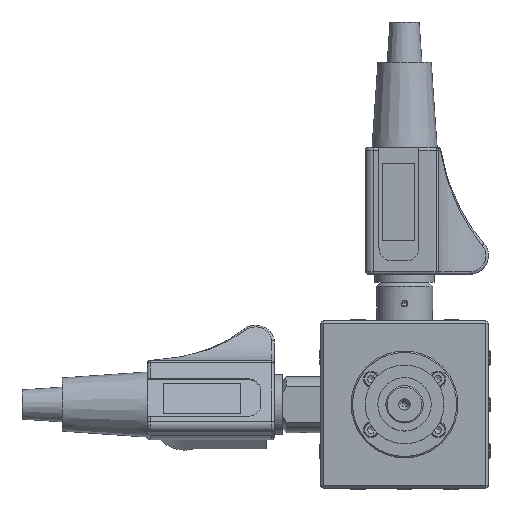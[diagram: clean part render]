
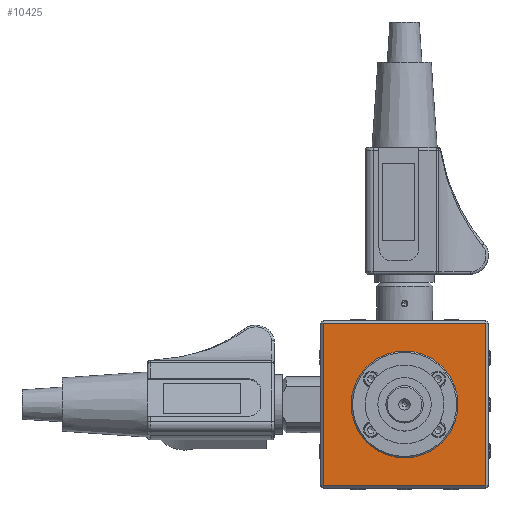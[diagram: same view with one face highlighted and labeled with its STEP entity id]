
A CAD part, top view. The second image highlights one B-rep face of the part: STEP entity #10425.
In plain terms, the highlighted planar face has unit normal (0, 0, 1).
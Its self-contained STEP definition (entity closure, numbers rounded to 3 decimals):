
#1000=FACE_BOUND('',#2900,.T.);
#1452=CIRCLE('',#12023,20.);
#2185=FACE_OUTER_BOUND('',#2899,.T.);
#2899=EDGE_LOOP('',(#9038,#9039,#9040,#9041));
#2900=EDGE_LOOP('',(#9042));
#3607=LINE('',#22129,#4311);
#3621=LINE('',#22158,#4325);
#3623=LINE('',#22161,#4327);
#3625=LINE('',#22164,#4329);
#4311=VECTOR('',#14767,10.);
#4325=VECTOR('',#14791,10.);
#4327=VECTOR('',#14795,10.);
#4329=VECTOR('',#14799,10.);
#5215=VERTEX_POINT('',#22079);
#5226=VERTEX_POINT('',#22103);
#5231=VERTEX_POINT('',#22116);
#5236=VERTEX_POINT('',#22132);
#5241=VERTEX_POINT('',#22145);
#6508=EDGE_CURVE('',#5215,#5215,#1452,.T.);
#6532=EDGE_CURVE('',#5226,#5231,#3607,.T.);
#6546=EDGE_CURVE('',#5231,#5241,#3621,.T.);
#6548=EDGE_CURVE('',#5241,#5236,#3623,.T.);
#6550=EDGE_CURVE('',#5236,#5226,#3625,.T.);
#9038=ORIENTED_EDGE('',*,*,#6532,.F.);
#9039=ORIENTED_EDGE('',*,*,#6550,.F.);
#9040=ORIENTED_EDGE('',*,*,#6548,.F.);
#9041=ORIENTED_EDGE('',*,*,#6546,.F.);
#9042=ORIENTED_EDGE('',*,*,#6508,.F.);
#9967=PLANE('',#12058);
#10425=ADVANCED_FACE('',(#2185,#1000),#9967,.T.);
#12023=AXIS2_PLACEMENT_3D('',#22080,#14721,#14722);
#12058=AXIS2_PLACEMENT_3D('',#22190,#14828,#14829);
#14721=DIRECTION('center_axis',(0.,0.,1.));
#14722=DIRECTION('ref_axis',(-1.,0.,0.));
#14767=DIRECTION('',(0.,1.,0.));
#14791=DIRECTION('',(1.,0.,0.));
#14795=DIRECTION('',(0.,-1.,0.));
#14799=DIRECTION('',(-1.,0.,0.));
#14828=DIRECTION('center_axis',(0.,0.,1.));
#14829=DIRECTION('ref_axis',(1.,0.,0.));
#22079=CARTESIAN_POINT('',(30.28,-3.241,-5.));
#22080=CARTESIAN_POINT('Origin',(10.28,-3.241,-5.));
#22103=CARTESIAN_POINT('',(-20.22,-33.741,-5.));
#22116=CARTESIAN_POINT('',(-20.22,27.259,-5.));
#22129=CARTESIAN_POINT('',(-20.22,12.509,-5.));
#22132=CARTESIAN_POINT('',(40.78,-33.741,-5.));
#22145=CARTESIAN_POINT('',(40.78,27.259,-5.));
#22158=CARTESIAN_POINT('',(26.03,27.259,-5.));
#22161=CARTESIAN_POINT('',(40.78,-18.991,-5.));
#22164=CARTESIAN_POINT('',(-5.47,-33.741,-5.));
#22190=CARTESIAN_POINT('Origin',(10.28,-3.241,-5.));
